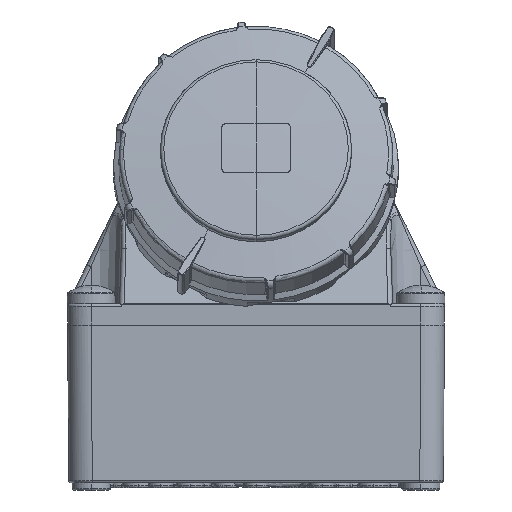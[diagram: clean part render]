
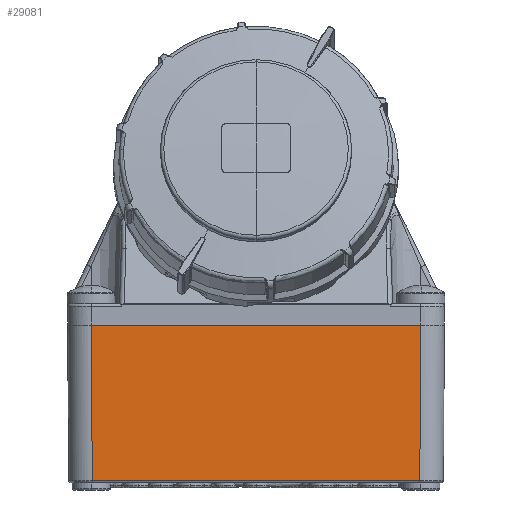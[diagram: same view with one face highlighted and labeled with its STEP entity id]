
A CAD part, left-side view. The second image highlights one B-rep face of the part: STEP entity #29081.
In plain terms, the highlighted planar face has unit normal (-1, 0, -0.007).
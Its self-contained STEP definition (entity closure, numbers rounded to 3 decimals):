
#191 = CARTESIAN_POINT ( 'NONE',  ( -130.007, 930.492, 0.993 ) ) ;
#1420 = VECTOR ( 'NONE', #62176, 1000. ) ;
#3846 = EDGE_CURVE ( 'NONE', #24535, #21516, #16853, .T. ) ;
#5944 = CARTESIAN_POINT ( 'NONE',  ( -130.5, 1069.5, 67. ) ) ;
#10825 = DIRECTION ( 'NONE',  ( -1., 0., -0.007 ) ) ;
#13178 = LINE ( 'NONE', #53272, #31825 ) ;
#14521 = ORIENTED_EDGE ( 'NONE', *, *, #72858, .T. ) ;
#16451 = DIRECTION ( 'NONE',  ( -0.007, 0., 1. ) ) ;
#16853 = LINE ( 'NONE', #43871, #46331 ) ;
#17430 = VERTEX_POINT ( 'NONE', #22198 ) ;
#18460 = EDGE_LOOP ( 'NONE', ( #14521, #54837, #48297, #32627 ) ) ;
#18609 = VECTOR ( 'NONE', #34682, 1000. ) ;
#20986 = DIRECTION ( 'NONE',  ( -0.007, -0.007, 1. ) ) ;
#21516 = VERTEX_POINT ( 'NONE', #56725 ) ;
#22198 = CARTESIAN_POINT ( 'NONE',  ( -130.007, 1069.508, 0.993 ) ) ;
#23182 = LINE ( 'NONE', #5944, #1420 ) ;
#24535 = VERTEX_POINT ( 'NONE', #191 ) ;
#29081 = ADVANCED_FACE ( 'NONE', ( #73779 ), #32180, .T. ) ;
#31825 = VECTOR ( 'NONE', #59260, 1000. ) ;
#32180 = PLANE ( 'NONE',  #39530 ) ;
#32627 = ORIENTED_EDGE ( 'NONE', *, *, #62754, .F. ) ;
#34682 = DIRECTION ( 'NONE',  ( 0.007, -0.007, -1. ) ) ;
#39530 = AXIS2_PLACEMENT_3D ( 'NONE', #72664, #10825, #16451 ) ;
#40578 = VERTEX_POINT ( 'NONE', #63787 ) ;
#43871 = CARTESIAN_POINT ( 'NONE',  ( -130.496, 930.004, 66.474 ) ) ;
#46331 = VECTOR ( 'NONE', #20986, 1000. ) ;
#48297 = ORIENTED_EDGE ( 'NONE', *, *, #3846, .T. ) ;
#53272 = CARTESIAN_POINT ( 'NONE',  ( -130.007, 1000., 0.993 ) ) ;
#54837 = ORIENTED_EDGE ( 'NONE', *, *, #71239, .T. ) ;
#56725 = CARTESIAN_POINT ( 'NONE',  ( -130.5, 930., 67. ) ) ;
#59260 = DIRECTION ( 'NONE',  ( 0., -1., 0. ) ) ;
#62176 = DIRECTION ( 'NONE',  ( 0., -1., 0. ) ) ;
#62754 = EDGE_CURVE ( 'NONE', #40578, #21516, #23182, .T. ) ;
#63162 = LINE ( 'NONE', #69542, #18609 ) ;
#63787 = CARTESIAN_POINT ( 'NONE',  ( -130.5, 1070., 67. ) ) ;
#69542 = CARTESIAN_POINT ( 'NONE',  ( -130.496, 1069.996, 66.474 ) ) ;
#71239 = EDGE_CURVE ( 'NONE', #17430, #24535, #13178, .T. ) ;
#72664 = CARTESIAN_POINT ( 'NONE',  ( -130.5, 1000., 66.996 ) ) ;
#72858 = EDGE_CURVE ( 'NONE', #40578, #17430, #63162, .T. ) ;
#73779 = FACE_OUTER_BOUND ( 'NONE', #18460, .T. ) ;
